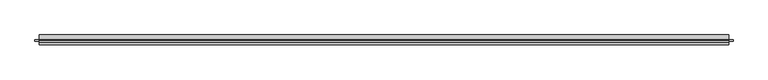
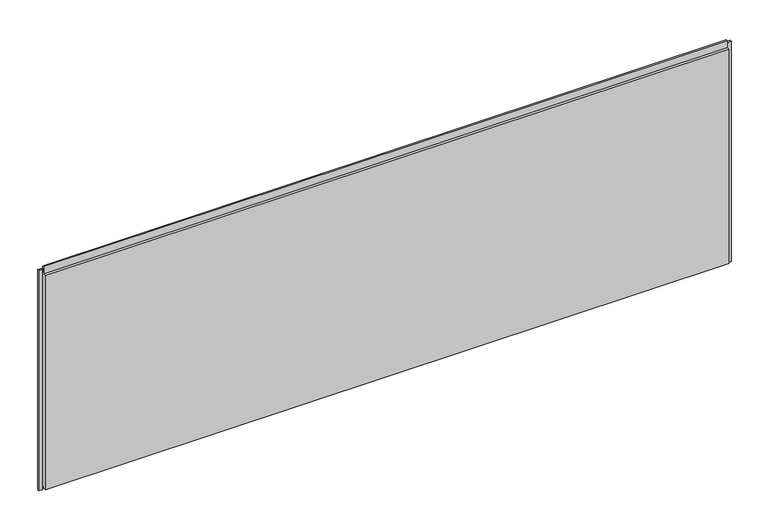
"""IFC4 building model written with IfcOpenShell, lengths in millimetres: plate geometry, Trimo_Qbiss Screen_Normal Panel-HORIZONTAL : HR - B."""

from ifc_helpers import new_model, si_unit, frame, origin, place, context, project, spatial, polyline, outline, extrude, source, transform, mapped, element, save


def plate_6787bb24(model_context):
    return source(origin(), model_context, "Body", "SweptSolid", [
        extrude(outline(polyline([(-1722.6, 76.5978162), (-1722.6, 67.8978162), (-1741.6, 67.8978162), (-1741.6, 76.5978162), (-1722.6, 76.5978162)])), frame((0.0, 0.0, -1.0), z_axis=(0.0, 0.0, 1.0), x_axis=(1.0, 0.0, 0.0)), (0.0, 0.0, 1.0), 1172.5),
        extrude(outline(polyline([(1722.6, 67.8978162), (1722.6, 76.5978162), (1741.6, 76.5978162), (1741.6, 67.8978162), (1722.6, 67.8978162)])), frame((0.0, 0.0, -1.0), z_axis=(0.0, 0.0, 1.0), x_axis=(1.0, 0.0, 0.0)), (0.0, 0.0, 1.0), 1172.5),
        extrude(outline(polyline([(1719.6, 76.0), (1719.6, 71.0), (-1719.6, 71.0), (-1719.6, 76.0), (1719.6, 76.0)])), frame((0.0, 0.0, 1150.5), z_axis=(0.0, 0.0, 1.0), x_axis=(1.0, 0.0, 0.0)), (0.0, 0.0, 1.0), 21.0),
        extrude(outline(polyline([(71.0, 1149.5), (100.0, 1149.5), (100.0, 0.0), (72.0, 0.0), (72.0, 15.5), (62.0, 15.5), (62.0, 7.0), (50.0, 7.0), (50.0, 1149.5), (63.0, 1149.5), (63.0, 1187.0), (71.0, 1187.0), (71.0, 1149.5)])), frame((-1719.6, 0.0, 0.0), z_axis=(1.0, 0.0, 0.0), x_axis=(0.0, 1.0, 0.0)), (0.0, 0.0, 1.0), 3439.2),
    ])


if __name__ == "__main__":
    model = new_model("IFC4")
    model_context = context("Model", 3, world=origin())
    ifc_project = project(units=[si_unit("LENGTHUNIT", "METRE", prefix="MILLI")], contexts=[model_context])
    site = spatial("IfcSite", under=ifc_project)
    building = spatial("IfcBuilding", under=site)
    placement = place(None, origin())
    plate_shape = plate_6787bb24(model_context)
    element("IfcPlate", 1, ObjectType="Trimo_Qbiss Screen_Normal Panel-HORIZONTAL : HR - B", at=placement, inside=building, context=model_context, shape_type="MappedRepresentation", body=[
        mapped(plate_shape, transform((0.0, 0.0, 0.0), x_axis=(1.0, 0.0, 0.0), y_axis=(0.0, 1.0, 0.0), z_axis=(0.0, 0.0, 1.0))),
    ])
    save(model, "model.ifc")
